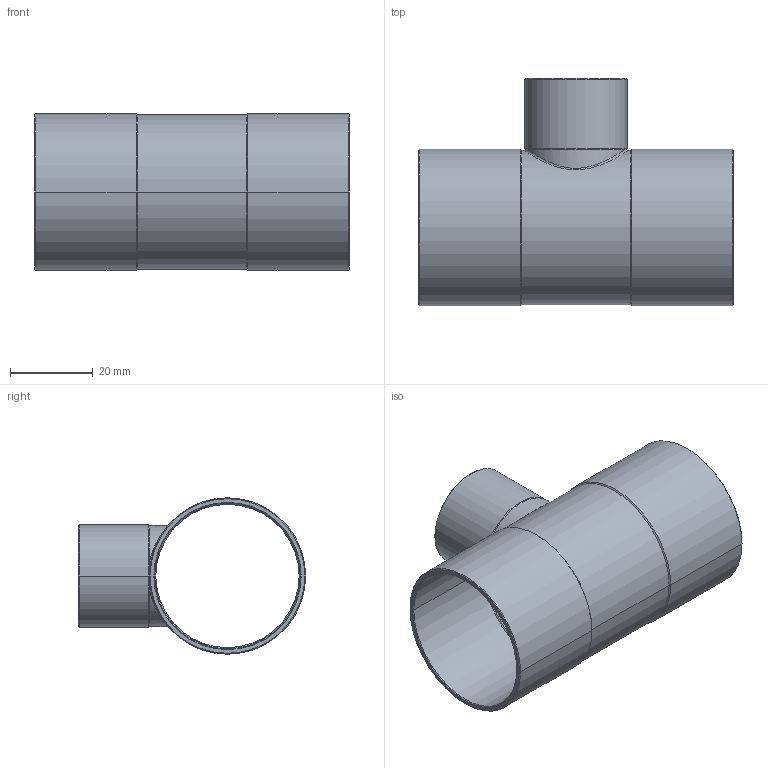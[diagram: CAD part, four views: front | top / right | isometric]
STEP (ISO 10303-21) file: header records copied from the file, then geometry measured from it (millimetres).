
FILE_DESCRIPTION((''),'2;1');
FILE_NAME('G:\Technics\CAD\Bauteile\15130\15130352235.stp','2005-11-02T10:19:49',('boden'),(''),'Autodesk Inventor 8','Autodesk Inventor 8','');
FILE_SCHEMA(('AUTOMOTIVE_DESIGN { 1 0 10303 214 1 1 1 1 }'));
Length unit declared in the file: millimetre
Products named in the file (1): 15130352235
Bounding box: 76 x 54.88 x 37.75 mm (x, y, z)
Volume: 12584.5 mm3; surface area: 19719.2 mm2
Topology: 1 solids, 1 shells, 49 faces, 112 edges, 64 vertices
Faces by surface type: cone 24, cylinder 20, plane 3, bspline 2
Entity records: 1796 total; most frequent: CARTESIAN_POINT 674, DIRECTION 238, ORIENTED_EDGE 224, EDGE_CURVE 112, AXIS2_PLACEMENT_3D 98, VERTEX_POINT 64, EDGE_LOOP 52, CIRCLE 50
